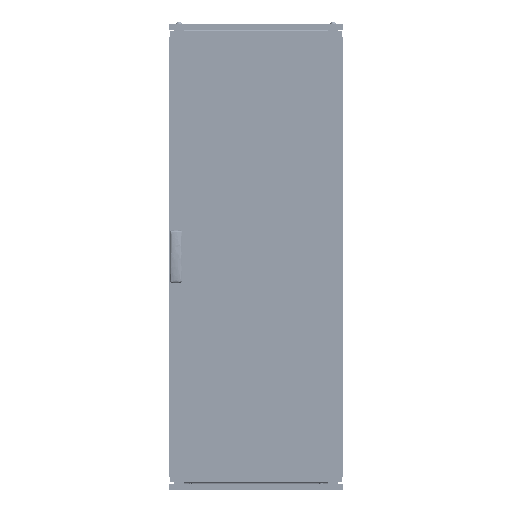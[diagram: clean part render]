
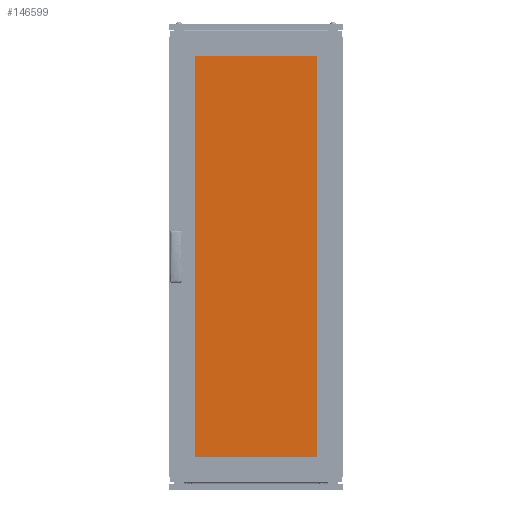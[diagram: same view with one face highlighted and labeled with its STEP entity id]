
A CAD part, top view. The second image highlights one B-rep face of the part: STEP entity #146599.
In plain terms, the highlighted planar face has unit normal (0, 0, 1).
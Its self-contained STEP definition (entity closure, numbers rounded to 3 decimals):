
#12164 = VERTEX_POINT ( 'NONE', #106987 ) ;
#14494 = VECTOR ( 'NONE', #164790, 1000. ) ;
#24483 = EDGE_CURVE ( 'NONE', #12164, #45132, #129390, .T. ) ;
#29391 = VECTOR ( 'NONE', #73102, 1000. ) ;
#31254 = DIRECTION ( 'NONE',  ( -1., 0., 0. ) ) ;
#42551 = LINE ( 'NONE', #76144, #29391 ) ;
#44861 = CARTESIAN_POINT ( 'NONE',  ( -230., 710., 5. ) ) ;
#45132 = VERTEX_POINT ( 'NONE', #44861 ) ;
#45504 = DIRECTION ( 'NONE',  ( 0., 0., -1. ) ) ;
#54876 = VERTEX_POINT ( 'NONE', #171977 ) ;
#61931 = AXIS2_PLACEMENT_3D ( 'NONE', #62757, #45504, #31254 ) ;
#62757 = CARTESIAN_POINT ( 'NONE',  ( 0., 0., 5. ) ) ;
#67202 = CARTESIAN_POINT ( 'NONE',  ( -230., 710., 5. ) ) ;
#70759 = ORIENTED_EDGE ( 'NONE', *, *, #183644, .T. ) ;
#73102 = DIRECTION ( 'NONE',  ( 0., -1., 0. ) ) ;
#76144 = CARTESIAN_POINT ( 'NONE',  ( -230., -710., 5. ) ) ;
#77065 = DIRECTION ( 'NONE',  ( 0., 1., 0. ) ) ;
#79121 = VECTOR ( 'NONE', #191538, 1000. ) ;
#80054 = LINE ( 'NONE', #157519, #156675 ) ;
#91196 = EDGE_CURVE ( 'NONE', #45132, #54876, #42551, .T. ) ;
#106987 = CARTESIAN_POINT ( 'NONE',  ( 230., 710., 5. ) ) ;
#110425 = ORIENTED_EDGE ( 'NONE', *, *, #91196, .T. ) ;
#129390 = LINE ( 'NONE', #67202, #79121 ) ;
#146599 = ADVANCED_FACE ( 'NONE', ( #199391 ), #154521, .F. ) ;
#149504 = EDGE_CURVE ( 'NONE', #54876, #196153, #182112, .T. ) ;
#154521 = PLANE ( 'NONE',  #61931 ) ;
#156464 = EDGE_LOOP ( 'NONE', ( #70759, #156489, #110425, #177278 ) ) ;
#156489 = ORIENTED_EDGE ( 'NONE', *, *, #24483, .T. ) ;
#156675 = VECTOR ( 'NONE', #77065, 1000. ) ;
#157519 = CARTESIAN_POINT ( 'NONE',  ( 230., -710., 5. ) ) ;
#164790 = DIRECTION ( 'NONE',  ( 1., 0., 0. ) ) ;
#171977 = CARTESIAN_POINT ( 'NONE',  ( -230., -710., 5. ) ) ;
#177278 = ORIENTED_EDGE ( 'NONE', *, *, #149504, .T. ) ;
#182112 = LINE ( 'NONE', #196368, #14494 ) ;
#183644 = EDGE_CURVE ( 'NONE', #196153, #12164, #80054, .T. ) ;
#183736 = CARTESIAN_POINT ( 'NONE',  ( 230., -710., 5. ) ) ;
#191538 = DIRECTION ( 'NONE',  ( -1., 0., 0. ) ) ;
#196153 = VERTEX_POINT ( 'NONE', #183736 ) ;
#196368 = CARTESIAN_POINT ( 'NONE',  ( -230., -710., 5. ) ) ;
#199391 = FACE_OUTER_BOUND ( 'NONE', #156464, .T. ) ;
